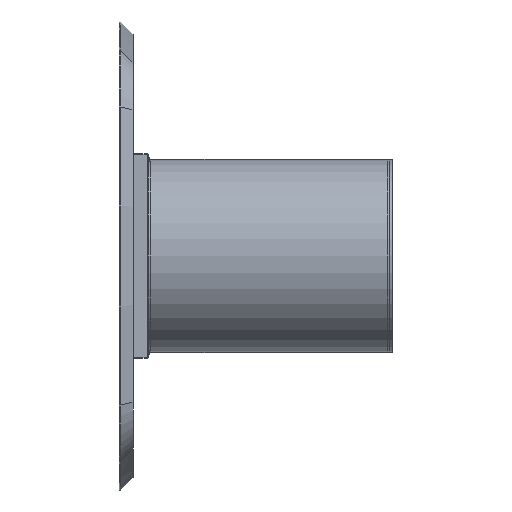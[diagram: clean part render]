
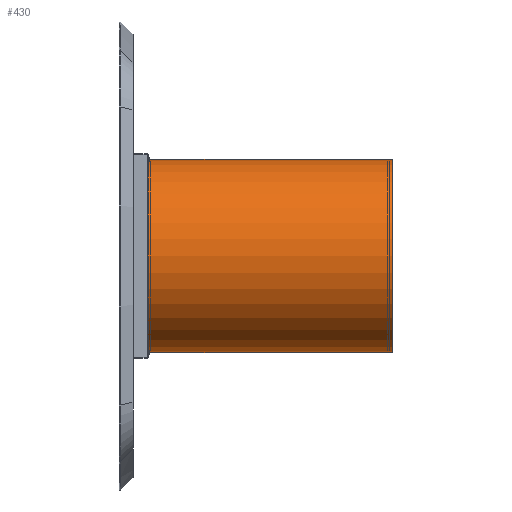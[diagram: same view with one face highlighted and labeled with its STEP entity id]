
A CAD part, left-side view. The second image highlights one B-rep face of the part: STEP entity #430.
In plain terms, the highlighted cylindrical face has radius 265 mm (diameter 530 mm), a partial arc.
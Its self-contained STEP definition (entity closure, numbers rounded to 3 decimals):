
#70 = CARTESIAN_POINT ( 'NONE',  ( 0., 670., 0. ) ) ;
#75 = DIRECTION ( 'NONE',  ( 0., 0., 1. ) ) ;
#430 = ADVANCED_FACE ( 'NONE', ( #16271 ), #4800, .T. ) ;
#863 = EDGE_CURVE ( 'NONE', #12551, #14584, #8468, .T. ) ;
#1857 = DIRECTION ( 'NONE',  ( 0., -1., 0. ) ) ;
#2257 = CARTESIAN_POINT ( 'NONE',  ( 0., 670., 0. ) ) ;
#2500 = CARTESIAN_POINT ( 'NONE',  ( 0., 0., 0. ) ) ;
#2713 = ORIENTED_EDGE ( 'NONE', *, *, #3514, .T. ) ;
#2745 = VERTEX_POINT ( 'NONE', #3910 ) ;
#2779 = CIRCLE ( 'NONE', #7360, 265. ) ;
#3041 = CARTESIAN_POINT ( 'NONE',  ( 0., 670., 265. ) ) ;
#3424 = DIRECTION ( 'NONE',  ( 0., -1., 0. ) ) ;
#3514 = EDGE_CURVE ( 'NONE', #14584, #5701, #6896, .T. ) ;
#3769 = DIRECTION ( 'NONE',  ( 0., 1., 0. ) ) ;
#3910 = CARTESIAN_POINT ( 'NONE',  ( 0., 670., 265. ) ) ;
#4144 = AXIS2_PLACEMENT_3D ( 'NONE', #2257, #9923, #11511 ) ;
#4166 = EDGE_CURVE ( 'NONE', #2745, #5701, #11865, .T. ) ;
#4800 = CYLINDRICAL_SURFACE ( 'NONE', #4144, 265. ) ;
#5701 = VERTEX_POINT ( 'NONE', #16312 ) ;
#6212 = DIRECTION ( 'NONE',  ( 0., 1., 0. ) ) ;
#6896 = CIRCLE ( 'NONE', #13312, 265. ) ;
#7360 = AXIS2_PLACEMENT_3D ( 'NONE', #70, #6212, #11328 ) ;
#7737 = ORIENTED_EDGE ( 'NONE', *, *, #4166, .F. ) ;
#8468 = LINE ( 'NONE', #11165, #16206 ) ;
#9772 = CARTESIAN_POINT ( 'NONE',  ( 0., 670., -265. ) ) ;
#9923 = DIRECTION ( 'NONE',  ( 0., -1., 0. ) ) ;
#11052 = ORIENTED_EDGE ( 'NONE', *, *, #863, .T. ) ;
#11165 = CARTESIAN_POINT ( 'NONE',  ( 0., 670., -265. ) ) ;
#11328 = DIRECTION ( 'NONE',  ( 0., 0., 1. ) ) ;
#11511 = DIRECTION ( 'NONE',  ( 0., 0., -1. ) ) ;
#11865 = LINE ( 'NONE', #3041, #14387 ) ;
#12148 = ORIENTED_EDGE ( 'NONE', *, *, #16283, .F. ) ;
#12551 = VERTEX_POINT ( 'NONE', #9772 ) ;
#13312 = AXIS2_PLACEMENT_3D ( 'NONE', #2500, #3769, #75 ) ;
#14271 = EDGE_LOOP ( 'NONE', ( #7737, #12148, #11052, #2713 ) ) ;
#14387 = VECTOR ( 'NONE', #1857, 1000. ) ;
#14584 = VERTEX_POINT ( 'NONE', #15590 ) ;
#15590 = CARTESIAN_POINT ( 'NONE',  ( 0., 0., -265. ) ) ;
#16206 = VECTOR ( 'NONE', #3424, 1000. ) ;
#16271 = FACE_OUTER_BOUND ( 'NONE', #14271, .T. ) ;
#16283 = EDGE_CURVE ( 'NONE', #12551, #2745, #2779, .T. ) ;
#16312 = CARTESIAN_POINT ( 'NONE',  ( 0., 0., 265. ) ) ;
